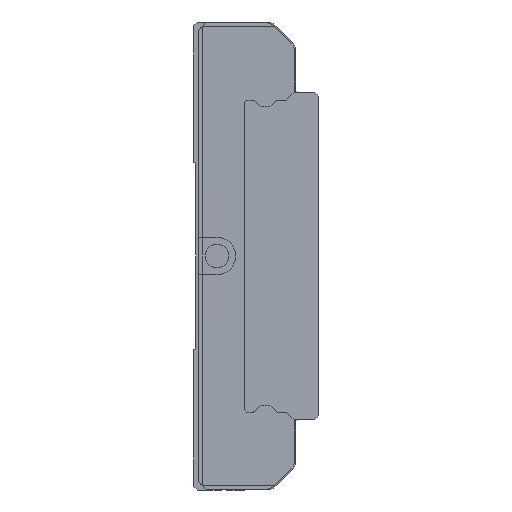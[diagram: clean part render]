
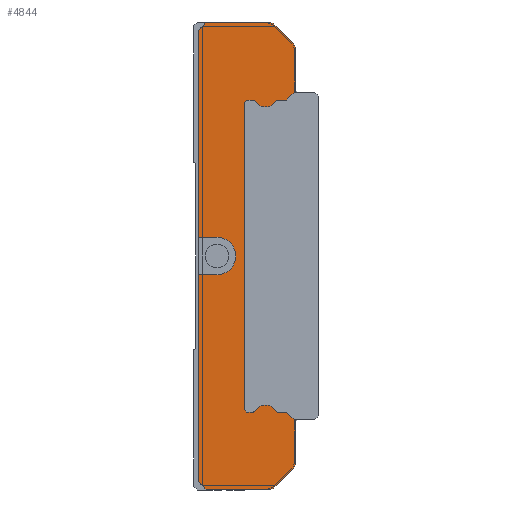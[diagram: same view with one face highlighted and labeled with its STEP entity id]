
A CAD part, left-side view. The second image highlights one B-rep face of the part: STEP entity #4844.
In plain terms, the highlighted planar face has unit normal (-1, 0, 0).
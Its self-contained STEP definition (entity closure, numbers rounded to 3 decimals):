
#385=CIRCLE('',#5386,1.);
#386=CIRCLE('',#5387,1.);
#387=CIRCLE('',#5388,2.4);
#388=CIRCLE('',#5389,1.);
#389=CIRCLE('',#5390,1.);
#390=CIRCLE('',#5391,0.15);
#391=CIRCLE('',#5392,1.6);
#392=CIRCLE('',#5393,0.15);
#393=CIRCLE('',#5394,0.15);
#394=CIRCLE('',#5395,1.6);
#395=CIRCLE('',#5396,0.15);
#961=ORIENTED_EDGE('',*,*,#1909,.T.);
#962=ORIENTED_EDGE('',*,*,#1910,.F.);
#963=ORIENTED_EDGE('',*,*,#1911,.F.);
#964=ORIENTED_EDGE('',*,*,#1912,.F.);
#965=ORIENTED_EDGE('',*,*,#1913,.F.);
#966=ORIENTED_EDGE('',*,*,#1914,.F.);
#967=ORIENTED_EDGE('',*,*,#1915,.F.);
#968=ORIENTED_EDGE('',*,*,#1916,.F.);
#969=ORIENTED_EDGE('',*,*,#1917,.T.);
#970=ORIENTED_EDGE('',*,*,#1918,.T.);
#971=ORIENTED_EDGE('',*,*,#1919,.T.);
#972=ORIENTED_EDGE('',*,*,#1920,.F.);
#973=ORIENTED_EDGE('',*,*,#1921,.F.);
#974=ORIENTED_EDGE('',*,*,#1922,.F.);
#975=ORIENTED_EDGE('',*,*,#1923,.F.);
#976=ORIENTED_EDGE('',*,*,#1924,.F.);
#977=ORIENTED_EDGE('',*,*,#1925,.F.);
#978=ORIENTED_EDGE('',*,*,#1926,.F.);
#979=ORIENTED_EDGE('',*,*,#1927,.T.);
#980=ORIENTED_EDGE('',*,*,#1928,.T.);
#981=ORIENTED_EDGE('',*,*,#1929,.T.);
#982=ORIENTED_EDGE('',*,*,#1930,.T.);
#983=ORIENTED_EDGE('',*,*,#1931,.F.);
#984=ORIENTED_EDGE('',*,*,#1932,.T.);
#985=ORIENTED_EDGE('',*,*,#1933,.T.);
#986=ORIENTED_EDGE('',*,*,#1934,.T.);
#987=ORIENTED_EDGE('',*,*,#1935,.T.);
#988=ORIENTED_EDGE('',*,*,#1936,.T.);
#989=ORIENTED_EDGE('',*,*,#1937,.T.);
#990=ORIENTED_EDGE('',*,*,#1938,.T.);
#991=ORIENTED_EDGE('',*,*,#1939,.F.);
#992=ORIENTED_EDGE('',*,*,#1940,.T.);
#993=ORIENTED_EDGE('',*,*,#1941,.T.);
#994=ORIENTED_EDGE('',*,*,#1942,.T.);
#1909=EDGE_CURVE('',#2493,#2494,#2765,.T.);
#1910=EDGE_CURVE('',#2495,#2494,#2766,.T.);
#1911=EDGE_CURVE('',#2496,#2495,#385,.T.);
#1912=EDGE_CURVE('',#2497,#2496,#2767,.T.);
#1913=EDGE_CURVE('',#2498,#2497,#386,.T.);
#1914=EDGE_CURVE('',#2499,#2498,#2768,.T.);
#1915=EDGE_CURVE('',#2500,#2499,#2769,.T.);
#1916=EDGE_CURVE('',#2501,#2500,#2770,.T.);
#1917=EDGE_CURVE('',#2501,#2502,#2771,.T.);
#1918=EDGE_CURVE('',#2502,#2503,#387,.T.);
#1919=EDGE_CURVE('',#2503,#2504,#2772,.T.);
#1920=EDGE_CURVE('',#2505,#2504,#2773,.T.);
#1921=EDGE_CURVE('',#2506,#2505,#2774,.T.);
#1922=EDGE_CURVE('',#2507,#2506,#2775,.T.);
#1923=EDGE_CURVE('',#2508,#2507,#388,.T.);
#1924=EDGE_CURVE('',#2509,#2508,#2776,.T.);
#1925=EDGE_CURVE('',#2510,#2509,#389,.T.);
#1926=EDGE_CURVE('',#2511,#2510,#2777,.T.);
#1927=EDGE_CURVE('',#2511,#2512,#2778,.T.);
#1928=EDGE_CURVE('',#2512,#2513,#2779,.T.);
#1929=EDGE_CURVE('',#2513,#2514,#2780,.T.);
#1930=EDGE_CURVE('',#2514,#2515,#390,.T.);
#1931=EDGE_CURVE('',#2516,#2515,#391,.T.);
#1932=EDGE_CURVE('',#2516,#2517,#392,.T.);
#1933=EDGE_CURVE('',#2517,#2518,#2781,.T.);
#1934=EDGE_CURVE('',#2518,#2519,#2782,.T.);
#1935=EDGE_CURVE('',#2519,#2520,#2783,.T.);
#1936=EDGE_CURVE('',#2520,#2521,#2784,.T.);
#1937=EDGE_CURVE('',#2521,#2522,#2785,.T.);
#1938=EDGE_CURVE('',#2522,#2523,#393,.T.);
#1939=EDGE_CURVE('',#2524,#2523,#394,.T.);
#1940=EDGE_CURVE('',#2524,#2525,#395,.T.);
#1941=EDGE_CURVE('',#2525,#2526,#2786,.T.);
#1942=EDGE_CURVE('',#2526,#2493,#2787,.T.);
#2493=VERTEX_POINT('',#7738);
#2494=VERTEX_POINT('',#7739);
#2495=VERTEX_POINT('',#7741);
#2496=VERTEX_POINT('',#7743);
#2497=VERTEX_POINT('',#7745);
#2498=VERTEX_POINT('',#7747);
#2499=VERTEX_POINT('',#7749);
#2500=VERTEX_POINT('',#7751);
#2501=VERTEX_POINT('',#7753);
#2502=VERTEX_POINT('',#7755);
#2503=VERTEX_POINT('',#7757);
#2504=VERTEX_POINT('',#7759);
#2505=VERTEX_POINT('',#7761);
#2506=VERTEX_POINT('',#7763);
#2507=VERTEX_POINT('',#7765);
#2508=VERTEX_POINT('',#7767);
#2509=VERTEX_POINT('',#7769);
#2510=VERTEX_POINT('',#7771);
#2511=VERTEX_POINT('',#7773);
#2512=VERTEX_POINT('',#7775);
#2513=VERTEX_POINT('',#7777);
#2514=VERTEX_POINT('',#7779);
#2515=VERTEX_POINT('',#7781);
#2516=VERTEX_POINT('',#7783);
#2517=VERTEX_POINT('',#7785);
#2518=VERTEX_POINT('',#7787);
#2519=VERTEX_POINT('',#7789);
#2520=VERTEX_POINT('',#7791);
#2521=VERTEX_POINT('',#7793);
#2522=VERTEX_POINT('',#7795);
#2523=VERTEX_POINT('',#7797);
#2524=VERTEX_POINT('',#7799);
#2525=VERTEX_POINT('',#7801);
#2526=VERTEX_POINT('',#7803);
#2765=LINE('',#7737,#3097);
#2766=LINE('',#7740,#3098);
#2767=LINE('',#7744,#3099);
#2768=LINE('',#7748,#3100);
#2769=LINE('',#7750,#3101);
#2770=LINE('',#7752,#3102);
#2771=LINE('',#7754,#3103);
#2772=LINE('',#7758,#3104);
#2773=LINE('',#7760,#3105);
#2774=LINE('',#7762,#3106);
#2775=LINE('',#7764,#3107);
#2776=LINE('',#7768,#3108);
#2777=LINE('',#7772,#3109);
#2778=LINE('',#7774,#3110);
#2779=LINE('',#7776,#3111);
#2780=LINE('',#7778,#3112);
#2781=LINE('',#7786,#3113);
#2782=LINE('',#7788,#3114);
#2783=LINE('',#7790,#3115);
#2784=LINE('',#7792,#3116);
#2785=LINE('',#7794,#3117);
#2786=LINE('',#7802,#3118);
#2787=LINE('',#7804,#3119);
#3097=VECTOR('',#6398,1000.);
#3098=VECTOR('',#6399,1000.);
#3099=VECTOR('',#6402,1000.);
#3100=VECTOR('',#6405,1000.);
#3101=VECTOR('',#6406,1000.);
#3102=VECTOR('',#6407,1000.);
#3103=VECTOR('',#6408,1000.);
#3104=VECTOR('',#6411,1000.);
#3105=VECTOR('',#6412,1000.);
#3106=VECTOR('',#6413,1000.);
#3107=VECTOR('',#6414,1000.);
#3108=VECTOR('',#6417,1000.);
#3109=VECTOR('',#6420,1000.);
#3110=VECTOR('',#6421,1000.);
#3111=VECTOR('',#6422,1000.);
#3112=VECTOR('',#6423,1000.);
#3113=VECTOR('',#6430,1000.);
#3114=VECTOR('',#6431,1000.);
#3115=VECTOR('',#6432,1000.);
#3116=VECTOR('',#6433,1000.);
#3117=VECTOR('',#6434,1000.);
#3118=VECTOR('',#6441,1000.);
#3119=VECTOR('',#6442,1000.);
#3803=EDGE_LOOP('',(#961,#962,#963,#964,#965,#966,#967,#968,#969,#970,#971,
#972,#973,#974,#975,#976,#977,#978,#979,#980,#981,#982,#983,#984,#985,#986,
#987,#988,#989,#990,#991,#992,#993,#994));
#4365=FACE_BOUND('',#3803,.T.);
#4573=PLANE('',#5385);
#4844=ADVANCED_FACE('',(#4365),#4573,.F.);
#5385=AXIS2_PLACEMENT_3D('',#7736,#6396,#6397);
#5386=AXIS2_PLACEMENT_3D('',#7742,#6400,#6401);
#5387=AXIS2_PLACEMENT_3D('',#7746,#6403,#6404);
#5388=AXIS2_PLACEMENT_3D('',#7756,#6409,#6410);
#5389=AXIS2_PLACEMENT_3D('',#7766,#6415,#6416);
#5390=AXIS2_PLACEMENT_3D('',#7770,#6418,#6419);
#5391=AXIS2_PLACEMENT_3D('',#7780,#6424,#6425);
#5392=AXIS2_PLACEMENT_3D('',#7782,#6426,#6427);
#5393=AXIS2_PLACEMENT_3D('',#7784,#6428,#6429);
#5394=AXIS2_PLACEMENT_3D('',#7796,#6435,#6436);
#5395=AXIS2_PLACEMENT_3D('',#7798,#6437,#6438);
#5396=AXIS2_PLACEMENT_3D('',#7800,#6439,#6440);
#6396=DIRECTION('',(1.,0.,0.));
#6397=DIRECTION('',(0.,0.,-1.));
#6398=DIRECTION('',(0.,-1.,0.));
#6399=DIRECTION('',(0.,0.,-1.));
#6400=DIRECTION('',(1.,0.,0.));
#6401=DIRECTION('',(0.,0.,-1.));
#6402=DIRECTION('',(0.,-0.707,-0.707));
#6403=DIRECTION('',(1.,0.,0.));
#6404=DIRECTION('',(0.,0.,-1.));
#6405=DIRECTION('',(0.,-1.,0.));
#6406=DIRECTION('',(0.,-0.707,0.707));
#6407=DIRECTION('',(0.,0.,1.));
#6408=DIRECTION('',(0.,-1.,0.));
#6409=DIRECTION('',(1.,0.,0.));
#6410=DIRECTION('',(0.,0.,-1.));
#6411=DIRECTION('',(0.,1.,0.));
#6412=DIRECTION('',(0.,0.,1.));
#6413=DIRECTION('',(0.,0.707,0.707));
#6414=DIRECTION('',(0.,1.,0.));
#6415=DIRECTION('',(1.,0.,0.));
#6416=DIRECTION('',(0.,0.,-1.));
#6417=DIRECTION('',(0.,0.707,-0.707));
#6418=DIRECTION('',(1.,0.,0.));
#6419=DIRECTION('',(0.,0.,-1.));
#6420=DIRECTION('',(0.,0.,-1.));
#6421=DIRECTION('',(0.,1.,0.));
#6422=DIRECTION('',(0.,0.707,0.707));
#6423=DIRECTION('',(0.,1.,0.));
#6424=DIRECTION('',(1.,0.,0.));
#6425=DIRECTION('',(0.,0.,-1.));
#6426=DIRECTION('',(1.,0.,0.));
#6427=DIRECTION('',(0.,0.,-1.));
#6428=DIRECTION('',(1.,0.,0.));
#6429=DIRECTION('',(0.,0.,-1.));
#6430=DIRECTION('',(0.,1.,0.));
#6431=DIRECTION('',(0.,0.707,0.707));
#6432=DIRECTION('',(0.,0.,1.));
#6433=DIRECTION('',(0.,-0.707,0.707));
#6434=DIRECTION('',(0.,-1.,0.));
#6435=DIRECTION('',(1.,0.,0.));
#6436=DIRECTION('',(0.,0.,-1.));
#6437=DIRECTION('',(1.,0.,0.));
#6438=DIRECTION('',(0.,0.,-1.));
#6439=DIRECTION('',(1.,0.,0.));
#6440=DIRECTION('',(0.,0.,-1.));
#6441=DIRECTION('',(0.,-1.,0.));
#6442=DIRECTION('',(0.,-0.707,0.707));
#7736=CARTESIAN_POINT('',(-20.75,3.574,28.9));
#7737=CARTESIAN_POINT('',(-20.75,0.4,21.));
#7738=CARTESIAN_POINT('',(-20.75,0.4,21.));
#7739=CARTESIAN_POINT('',(-20.75,0.2,21.));
#7740=CARTESIAN_POINT('',(-20.75,0.2,26.526));
#7741=CARTESIAN_POINT('',(-20.75,0.2,26.526));
#7742=CARTESIAN_POINT('',(-20.75,1.2,26.526));
#7743=CARTESIAN_POINT('',(-20.75,0.493,27.233));
#7744=CARTESIAN_POINT('',(-20.75,2.867,29.607));
#7745=CARTESIAN_POINT('',(-20.75,2.867,29.607));
#7746=CARTESIAN_POINT('',(-20.75,3.574,28.9));
#7747=CARTESIAN_POINT('',(-20.75,3.574,29.9));
#7748=CARTESIAN_POINT('',(-20.75,11.7,29.9));
#7749=CARTESIAN_POINT('',(-20.75,11.7,29.9));
#7750=CARTESIAN_POINT('',(-20.75,12.7,28.9));
#7751=CARTESIAN_POINT('',(-20.75,12.7,28.9));
#7752=CARTESIAN_POINT('',(-20.75,12.7,-28.9));
#7753=CARTESIAN_POINT('',(-20.75,12.7,2.4));
#7754=CARTESIAN_POINT('',(-20.75,13.3,2.4));
#7755=CARTESIAN_POINT('',(-20.75,10.3,2.4));
#7756=CARTESIAN_POINT('',(-20.75,10.3,0.));
#7757=CARTESIAN_POINT('',(-20.75,10.3,-2.4));
#7758=CARTESIAN_POINT('',(-20.75,10.3,-2.4));
#7759=CARTESIAN_POINT('',(-20.75,12.7,-2.4));
#7760=CARTESIAN_POINT('',(-20.75,12.7,-28.9));
#7761=CARTESIAN_POINT('',(-20.75,12.7,-28.9));
#7762=CARTESIAN_POINT('',(-20.75,11.7,-29.9));
#7763=CARTESIAN_POINT('',(-20.75,11.7,-29.9));
#7764=CARTESIAN_POINT('',(-20.75,3.574,-29.9));
#7765=CARTESIAN_POINT('',(-20.75,3.574,-29.9));
#7766=CARTESIAN_POINT('',(-20.75,3.574,-28.9));
#7767=CARTESIAN_POINT('',(-20.75,2.867,-29.607));
#7768=CARTESIAN_POINT('',(-20.75,0.493,-27.233));
#7769=CARTESIAN_POINT('',(-20.75,0.493,-27.233));
#7770=CARTESIAN_POINT('',(-20.75,1.2,-26.526));
#7771=CARTESIAN_POINT('',(-20.75,0.2,-26.526));
#7772=CARTESIAN_POINT('',(-20.75,0.2,26.526));
#7773=CARTESIAN_POINT('',(-20.75,0.2,-21.));
#7774=CARTESIAN_POINT('',(-20.75,-2.2,-21.));
#7775=CARTESIAN_POINT('',(-20.75,0.4,-21.));
#7776=CARTESIAN_POINT('',(-20.75,0.4,-21.));
#7777=CARTESIAN_POINT('',(-20.75,1.4,-20.));
#7778=CARTESIAN_POINT('',(-20.75,1.4,-20.));
#7779=CARTESIAN_POINT('',(-20.75,2.57,-20.));
#7780=CARTESIAN_POINT('',(-20.75,2.57,-19.85));
#7781=CARTESIAN_POINT('',(-20.75,2.701,-19.923));
#7782=CARTESIAN_POINT('',(-20.75,4.1,-20.7));
#7783=CARTESIAN_POINT('',(-20.75,5.499,-19.923));
#7784=CARTESIAN_POINT('',(-20.75,5.63,-19.85));
#7785=CARTESIAN_POINT('',(-20.75,5.63,-20.));
#7786=CARTESIAN_POINT('',(-20.75,5.63,-20.));
#7787=CARTESIAN_POINT('',(-20.75,6.5,-20.));
#7788=CARTESIAN_POINT('',(-20.75,6.5,-20.));
#7789=CARTESIAN_POINT('',(-20.75,6.8,-19.7));
#7790=CARTESIAN_POINT('',(-20.75,6.8,-19.7));
#7791=CARTESIAN_POINT('',(-20.75,6.8,19.7));
#7792=CARTESIAN_POINT('',(-20.75,6.8,19.7));
#7793=CARTESIAN_POINT('',(-20.75,6.5,20.));
#7794=CARTESIAN_POINT('',(-20.75,6.5,20.));
#7795=CARTESIAN_POINT('',(-20.75,5.63,20.));
#7796=CARTESIAN_POINT('',(-20.75,5.63,19.85));
#7797=CARTESIAN_POINT('',(-20.75,5.499,19.923));
#7798=CARTESIAN_POINT('',(-20.75,4.1,20.7));
#7799=CARTESIAN_POINT('',(-20.75,2.701,19.923));
#7800=CARTESIAN_POINT('',(-20.75,2.57,19.85));
#7801=CARTESIAN_POINT('',(-20.75,2.57,20.));
#7802=CARTESIAN_POINT('',(-20.75,2.57,20.));
#7803=CARTESIAN_POINT('',(-20.75,1.4,20.));
#7804=CARTESIAN_POINT('',(-20.75,1.4,20.));
